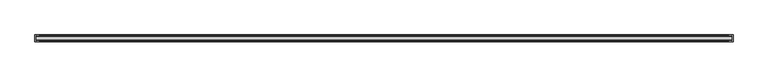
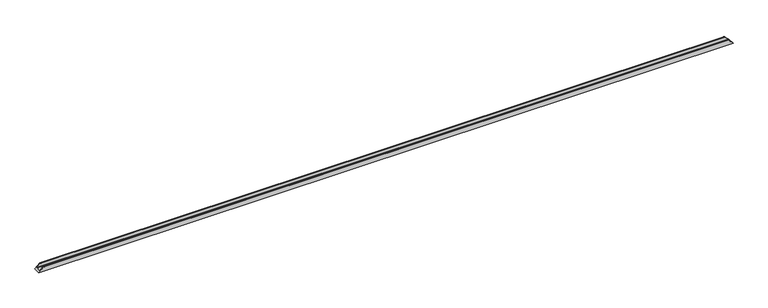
"""IFC4 building model written with IfcOpenShell, lengths in millimetres: proxy geometry, Weiku - Montante - Caixilho único 02.3.02.403 : Weiku - Montante - Caixilho único 02.3.02.403."""

from ifc_helpers import new_model, si_unit, frame, origin, place, context, project, spatial, ellipse_curve, source, transform, mapped, element, save
from ifc_brep_helpers import plane_surface, cylinder_surface, advanced_brep


def generic_models_8f2595f7(model_context):
    return source(origin(), model_context, "Body", "AdvancedBrep", [
        advanced_brep(
        [(-3977.8, 9.8, 18.2), (-3940.1, 9.8, 55.9), (3940.1, 9.8, 55.9), (3977.8, 9.8, 18.2), (-3980.3000079, 63.85, 15.6999921), (-3980.3000079, 15.05, 15.6999921), (3980.3000079, 15.05, 15.6999921), (3980.3000079, 63.85, 15.6999921), (-3996.0, 78.9, 0.0), (3996.0, 78.9, 0.0), (3996.0, 0.0, 0.0), (-3996.0, 0.0, 0.0), (3940.1, 0.0, 55.9), (-3940.1, 0.0, 55.9), (-3939.6, 9.3, 56.4), (-3939.6, 0.5, 56.4), (3939.6, 0.5, 56.4), (3939.6, 9.3, 56.4), (-3977.8, 15.05, 18.2), (3977.8, 15.05, 18.2), (-3977.8, 63.85, 18.2), (3977.8, 63.85, 18.2), (-3977.8, 69.1, 18.2), (3977.8, 69.1, 18.2), (-3940.1, 69.1, 55.9), (3940.1, 69.1, 55.9), (-3939.6, 78.4, 56.4), (-3939.6, 69.6, 56.4), (3939.6, 69.6, 56.4), (3939.6, 78.4, 56.4), (-3940.1, 78.9, 55.9), (3940.1, 78.9, 55.9)],
        [
            (0, 1),
            (1, 2),
            (2, 3),
            (3, 0),
            (4, 5),
            (5, 6),
            (6, 7),
            (7, 4),
            (8, 9),
            (9, 10),
            (10, 11),
            (11, 8),
            (10, 12),
            (12, 13),
            (13, 11),
            (14, 15),
            (15, 16),
            (16, 17),
            (17, 14),
            (18, 0),
            (3, 19),
            (19, 18),
            (5, 18),
            (19, 6),
            (15, 13, ellipse_curve(frame((-3940.1, 0.5, 55.9), z_axis=(0.7071067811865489, 0.0, -0.7071067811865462), x_axis=(-0.707106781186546, 0.0, -0.7071067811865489)), 0.7071068, 0.5)),
            (12, 16, ellipse_curve(frame((3940.1, 0.5, 55.9), z_axis=(-0.7071067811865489, 0.0, -0.7071067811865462), x_axis=(-0.707106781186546, 0.0, 0.7071067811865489)), 0.7071068, 0.5)),
            (20, 4),
            (7, 21),
            (21, 20),
            (22, 20),
            (21, 23),
            (23, 22),
            (24, 22),
            (23, 25),
            (25, 24),
            (26, 27),
            (27, 28),
            (28, 29),
            (29, 26),
            (30, 26, ellipse_curve(frame((-3940.1, 78.4, 55.9), z_axis=(0.7071067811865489, 0.0, -0.7071067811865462), x_axis=(-0.707106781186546, 0.0, -0.7071067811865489)), 0.7071068, 0.5)),
            (29, 31, ellipse_curve(frame((3940.1, 78.4, 55.9), z_axis=(-0.7071067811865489, 0.0, -0.7071067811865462), x_axis=(-0.707106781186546, 0.0, 0.7071067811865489)), 0.7071068, 0.5)),
            (31, 30),
            (8, 30),
            (31, 9),
            (1, 14, ellipse_curve(frame((-3940.1, 9.3, 55.9), z_axis=(0.7071067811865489, 0.0, -0.7071067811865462), x_axis=(-0.707106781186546, 0.0, -0.7071067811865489)), 0.7071068, 0.5)),
            (17, 2, ellipse_curve(frame((3940.1, 9.3, 55.9), z_axis=(-0.7071067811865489, 0.0, -0.7071067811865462), x_axis=(-0.707106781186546, 0.0, 0.7071067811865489)), 0.7071068, 0.5)),
            (27, 24, ellipse_curve(frame((-3940.1, 69.6, 55.9), z_axis=(0.7071067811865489, 0.0, -0.7071067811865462), x_axis=(-0.707106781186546, 0.0, -0.7071067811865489)), 0.7071068, 0.5)),
            (25, 28, ellipse_curve(frame((3940.1, 69.6, 55.9), z_axis=(-0.7071067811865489, 0.0, -0.7071067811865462), x_axis=(-0.707106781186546, 0.0, 0.7071067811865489)), 0.7071068, 0.5)),
        ],
        [
            plane_surface(frame((-3996.0, 9.8, 55.9), z_axis=(0.0, 1.0, 0.0), x_axis=(1.0, 0.0, 0.0))),
            plane_surface(frame((-3996.0, 15.05, 15.6999921), z_axis=(0.0, 0.0, 1.0), x_axis=(1.0, 0.0, 0.0))),
            plane_surface(frame((-3996.0, 78.9, 0.0), z_axis=(0.0, 0.0, -1.0), x_axis=(1.0, 0.0, 0.0))),
            plane_surface(frame((-3996.0, 0.0, 0.0), z_axis=(0.0, -1.0, 0.0), x_axis=(1.0, 0.0, 0.0))),
            plane_surface(frame((-3996.0, 0.5, 56.4), z_axis=(0.0, 0.0, 1.0), x_axis=(1.0, 0.0, 0.0))),
            plane_surface(frame((-3996.0, 9.8, 18.2), z_axis=(0.0, 0.0, 1.0), x_axis=(1.0, 0.0, 0.0))),
            plane_surface(frame((-3996.0, 15.05, 18.2), z_axis=(0.0, 1.0, 0.0), x_axis=(1.0, 0.0, 0.0))),
            cylinder_surface(frame((-3996.0, 0.5, 55.9), z_axis=(-1.0, 0.0, 0.0), x_axis=(0.0, 1.0, 0.0)), 0.5),
            plane_surface(frame((-3996.0, 63.85, 15.6999921), z_axis=(0.0, -1.0, 0.0), x_axis=(1.0, 0.0, 0.0))),
            plane_surface(frame((-3996.0, 63.85, 18.2), z_axis=(0.0, 0.0, 1.0), x_axis=(1.0, 0.0, 0.0))),
            plane_surface(frame((-3996.0, 69.1, 18.2), z_axis=(0.0, -1.0, 0.0), x_axis=(1.0, 0.0, 0.0))),
            plane_surface(frame((-3996.0, 69.6, 56.4), z_axis=(0.0, 0.0, 1.0), x_axis=(1.0, 0.0, 0.0))),
            cylinder_surface(frame((-3996.0, 78.4, 55.9), z_axis=(-1.0, 0.0, 0.0), x_axis=(0.0, -1.0, 0.0)), 0.5),
            plane_surface(frame((-3996.0, 78.9, 55.9), z_axis=(0.0, 1.0, 0.0), x_axis=(1.0, 0.0, 0.0))),
            cylinder_surface(frame((-3996.0, 9.3, 55.9), z_axis=(-1.0, 0.0, 0.0), x_axis=(0.0, 1.0, 0.0)), 0.5),
            cylinder_surface(frame((-3996.0, 69.6, 55.9), z_axis=(-1.0, 0.0, 0.0), x_axis=(0.0, 1.0, 0.0)), 0.5),
            plane_surface(frame((-3996.0, 0.0, 0.0), z_axis=(-0.7071067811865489, 0.0, 0.7071067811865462), x_axis=(0.0, 1.0, 0.0))),
            plane_surface(frame((3936.0, 0.0, 60.0), z_axis=(0.7071067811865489, 0.0, 0.7071067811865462), x_axis=(0.0, 1.0, 0.0))),
        ],
        [
            (0, [[1, 2, 3, 4]]),
            (1, [[5, 6, 7, 8]]),
            (2, [[9, 10, 11, 12]]),
            (3, [[-11, 13, 14, 15]]),
            (4, [[16, 17, 18, 19]]),
            (5, [[20, -4, 21, 22]]),
            (6, [[23, -22, 24, -6]]),
            (7, [[25, -14, 26, -17]]),
            (8, [[27, -8, 28, 29]]),
            (9, [[30, -29, 31, 32]]),
            (10, [[33, -32, 34, 35]]),
            (11, [[36, 37, 38, 39]]),
            (12, [[40, -39, 41, 42]]),
            (13, [[-9, 43, -42, 44]]),
            (14, [[45, -19, 46, -2]]),
            (15, [[47, -35, 48, -37]]),
            (16, [[-1, -20, -23, -5, -27, -30, -33, -47, -36, -40, -43, -12, -15, -25, -16, -45]]),
            (17, [[-3, -46, -18, -26, -13, -10, -44, -41, -38, -48, -34, -31, -28, -7, -24, -21]]),
        ],
    ),
    ])


if __name__ == "__main__":
    model = new_model("IFC4")
    model_context = context("Model", 3, world=origin())
    ifc_project = project(units=[si_unit("LENGTHUNIT", "METRE", prefix="MILLI")], contexts=[model_context])
    site = spatial("IfcSite", under=ifc_project)
    building = spatial("IfcBuilding", under=site)
    placement = place(None, origin())
    generic_models_shape = generic_models_8f2595f7(model_context)
    element("IfcBuildingElementProxy", 1, Name="Weiku - Montante - Caixilho único 02.3.02.403 : Weiku - Montante - Caixilho único 02.3.02.403", ObjectType="Weiku - Montante - Caixilho único 02.3.02.403 : Weiku - Montante - Caixilho único 02.3.02.403", at=placement, inside=building, context=model_context, shape_type="MappedRepresentation", body=[
        mapped(generic_models_shape, transform((0.0, 0.0, 0.0), x_axis=(1.0, 0.0, 0.0), y_axis=(0.0, 1.0, 0.0), z_axis=(0.0, 0.0, 1.0))),
    ])
    save(model, "model.ifc")
